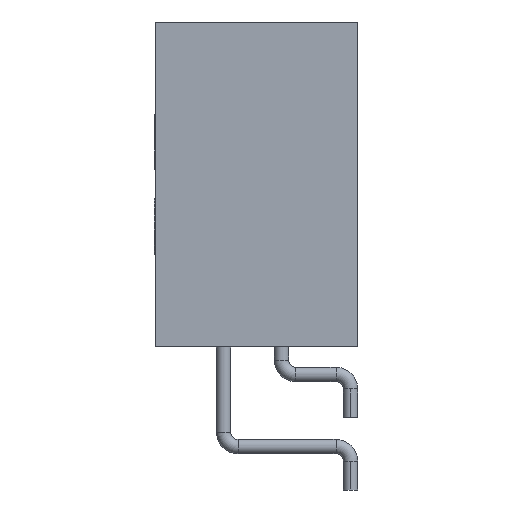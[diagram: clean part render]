
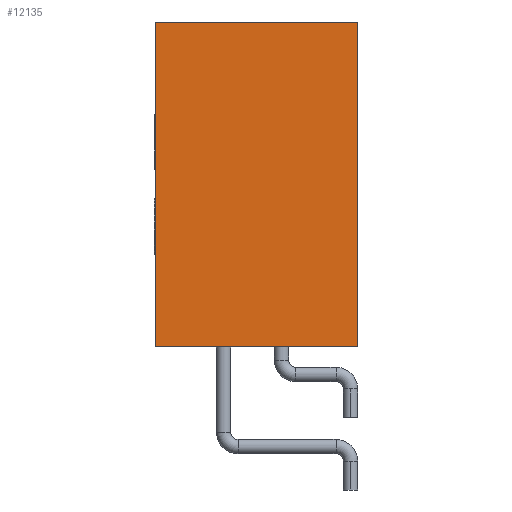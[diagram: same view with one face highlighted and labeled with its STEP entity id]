
A CAD part, left-side view. The second image highlights one B-rep face of the part: STEP entity #12135.
In plain terms, the highlighted planar face has unit normal (-1, 0, 0).
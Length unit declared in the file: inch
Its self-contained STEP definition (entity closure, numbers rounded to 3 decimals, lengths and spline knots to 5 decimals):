
#127 = LINE ( 'NONE', #19675, #23721 ) ;
#851 = AXIS2_PLACEMENT_3D ( 'NONE', #36892, #12373, #33904 ) ;
#1375 = DIRECTION ( 'NONE',  ( 0., -1., 0. ) ) ;
#1387 = DIRECTION ( 'NONE',  ( 0., 0., 1. ) ) ;
#1791 = CARTESIAN_POINT ( 'NONE',  ( -0.3625, 0.0675, 0. ) ) ;
#2474 = VECTOR ( 'NONE', #4779, 39.37008 ) ;
#4779 = DIRECTION ( 'NONE',  ( 0., 0., 1. ) ) ;
#5047 = EDGE_LOOP ( 'NONE', ( #38945, #34491, #39500, #38582 ) ) ;
#6312 = FACE_OUTER_BOUND ( 'NONE', #5047, .T. ) ;
#6329 = VERTEX_POINT ( 'NONE', #27820 ) ;
#7112 = VERTEX_POINT ( 'NONE', #1791 ) ;
#7517 = VECTOR ( 'NONE', #30452, 39.37008 ) ;
#8794 = CARTESIAN_POINT ( 'NONE',  ( -0.3625, -0.0725, 0. ) ) ;
#9940 = VERTEX_POINT ( 'NONE', #29219 ) ;
#10673 = EDGE_CURVE ( 'NONE', #9940, #6329, #23881, .T. ) ;
#11585 = LINE ( 'NONE', #20249, #2474 ) ;
#12135 = ADVANCED_FACE ( 'NONE', ( #6312 ), #21547, .T. ) ;
#12243 = EDGE_CURVE ( 'NONE', #6329, #21597, #11585, .T. ) ;
#12373 = DIRECTION ( 'NONE',  ( -1., 0., 0. ) ) ;
#14580 = VECTOR ( 'NONE', #1387, 39.37008 ) ;
#15541 = LINE ( 'NONE', #38282, #14580 ) ;
#19675 = CARTESIAN_POINT ( 'NONE',  ( -0.3625, 0.0675, 0. ) ) ;
#20249 = CARTESIAN_POINT ( 'NONE',  ( -0.3625, -0.0725, -0.225 ) ) ;
#21547 = PLANE ( 'NONE',  #851 ) ;
#21597 = VERTEX_POINT ( 'NONE', #8794 ) ;
#23721 = VECTOR ( 'NONE', #1375, 39.37008 ) ;
#23881 = LINE ( 'NONE', #24298, #7517 ) ;
#24298 = CARTESIAN_POINT ( 'NONE',  ( -0.3625, 0.0675, -0.225 ) ) ;
#24462 = EDGE_CURVE ( 'NONE', #9940, #7112, #15541, .T. ) ;
#27820 = CARTESIAN_POINT ( 'NONE',  ( -0.3625, -0.0725, -0.225 ) ) ;
#28071 = EDGE_CURVE ( 'NONE', #7112, #21597, #127, .T. ) ;
#29219 = CARTESIAN_POINT ( 'NONE',  ( -0.3625, 0.0675, -0.225 ) ) ;
#30452 = DIRECTION ( 'NONE',  ( 0., -1., 0. ) ) ;
#33904 = DIRECTION ( 'NONE',  ( 0., 0., -1. ) ) ;
#34491 = ORIENTED_EDGE ( 'NONE', *, *, #24462, .F. ) ;
#36892 = CARTESIAN_POINT ( 'NONE',  ( -0.3625, 0.0675, -0.225 ) ) ;
#38282 = CARTESIAN_POINT ( 'NONE',  ( -0.3625, 0.0675, -0.225 ) ) ;
#38582 = ORIENTED_EDGE ( 'NONE', *, *, #12243, .T. ) ;
#38945 = ORIENTED_EDGE ( 'NONE', *, *, #28071, .F. ) ;
#39500 = ORIENTED_EDGE ( 'NONE', *, *, #10673, .T. ) ;
